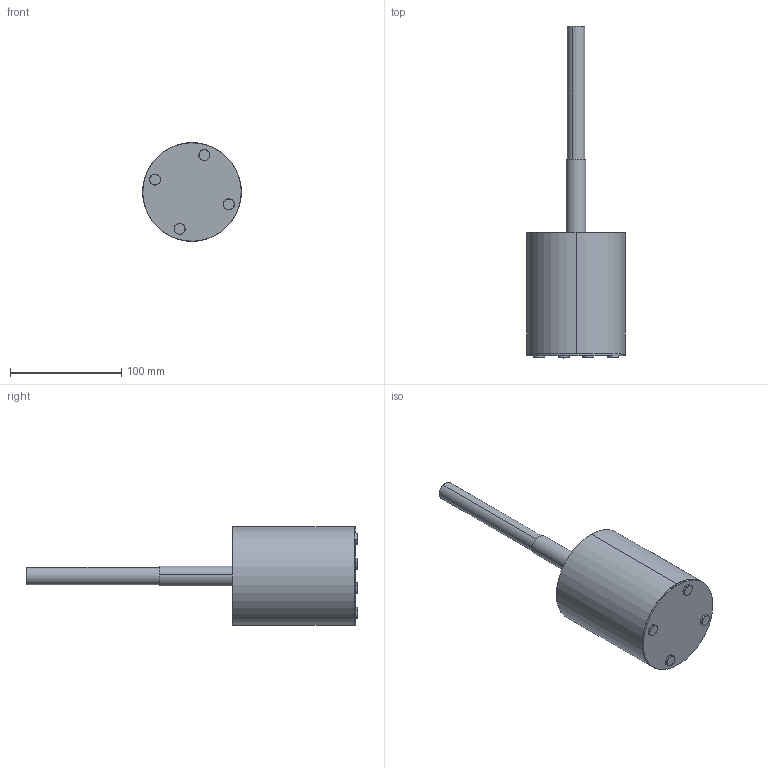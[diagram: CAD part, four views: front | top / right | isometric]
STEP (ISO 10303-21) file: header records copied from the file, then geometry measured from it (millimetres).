
FILE_DESCRIPTION (( 'STEP AP214' ), '1' );
FILE_NAME ('Szczotka do WC bez pokrywki RUKKO.STEP', '2024-07-19T10:47:19', ( '' ), ( '' ), 'SwSTEP 2.0', 'SolidWorks 2021', '' );
FILE_SCHEMA (( 'AUTOMOTIVE_DESIGN' ));
Length unit declared in the file: millimetre
Products named in the file (7): 04-007-0363-S-01-02; Szczotka do WC bez pokrywki RUKKO; 04-001-0362-S-00-03; kubek szczotki; stopka gumowa 10mm_7mm; 04-008-0110-S-00-01; szczotka gwint m6
Assembly tree (9 placements, depth 2):
  Szczotka do WC bez pokrywki RUKKO
    04-008-0110-S-00-01
    04-001-0362-S-00-03
    szczotka gwint m6
    04-007-0363-S-01-02
    kubek szczotki
    stopka gumowa 10mm_7mm  x4
Bounding box: 89 x 298.5 x 89 mm (x, y, z)
Volume: 419847.2 mm3; surface area: 171948.7 mm2
Topology: 9 solids, 9 shells, 135 faces, 308 edges, 195 vertices
Faces by surface type: cylinder 84, plane 26, torus 14, cone 8, bspline 3
Entity records: 6412 total; most frequent: CARTESIAN_POINT 3753, ORIENTED_EDGE 512, DIRECTION 491, EDGE_CURVE 256, AXIS2_PLACEMENT_3D 201, VERTEX_POINT 165, EDGE_LOOP 123, FACE_OUTER_BOUND 108
